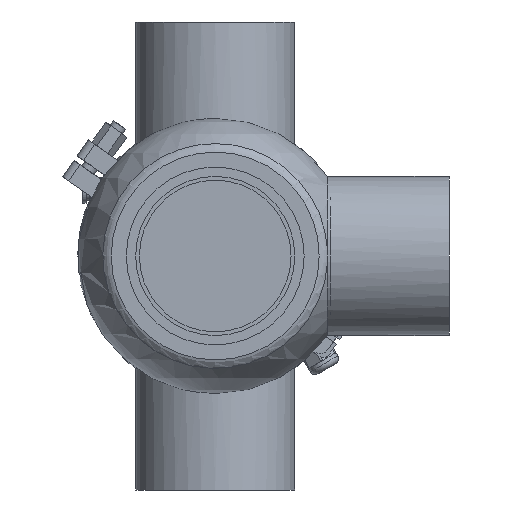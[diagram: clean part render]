
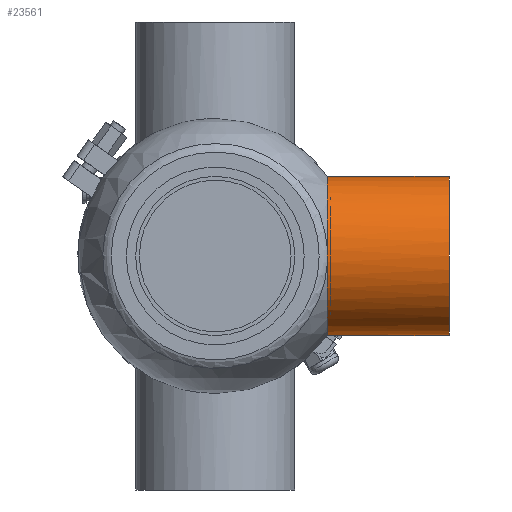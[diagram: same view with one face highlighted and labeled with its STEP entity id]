
A CAD part, front view. The second image highlights one B-rep face of the part: STEP entity #23561.
In plain terms, the highlighted cylindrical face has radius 42.5 mm (diameter 85 mm), a full revolution.
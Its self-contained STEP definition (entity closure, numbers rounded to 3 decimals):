
#1174 = VERTEX_POINT ( 'NONE', #12282 ) ;
#1401 = ORIENTED_EDGE ( 'NONE', *, *, #21452, .T. ) ;
#2538 = CARTESIAN_POINT ( 'NONE',  ( 59.965, -42.489, -1.116 ) ) ;
#3910 = EDGE_LOOP ( 'NONE', ( #56024, #1401, #30383, #42358 ) ) ;
#4134 = CIRCLE ( 'NONE', #19023, 42.5 ) ;
#6075 = ORIENTED_EDGE ( 'NONE', *, *, #41846, .T. ) ;
#6307 = DIRECTION ( 'NONE',  ( -1., 0., 0. ) ) ;
#6930 = CARTESIAN_POINT ( 'NONE',  ( 59.967, -42.367, -3.354 ) ) ;
#7529 = CARTESIAN_POINT ( 'NONE',  ( 59.965, -42.5, -0.553 ) ) ;
#8963 = CARTESIAN_POINT ( 'NONE',  ( 59.989, 42.484, 1.336 ) ) ;
#8988 = B_SPLINE_CURVE_WITH_KNOTS ( 'NONE', 3,
 ( #50100, #15967, #34921, #7529, #2538, #30868, #59385, #6930 ),
 .UNSPECIFIED., .F., .F.,
 ( 4, 2, 2, 4 ),
 ( 0.025, 0.028, 0.03, 0.032 ),
 .UNSPECIFIED. ) ;
#10967 = FACE_OUTER_BOUND ( 'NONE', #20470, .T. ) ;
#12282 = CARTESIAN_POINT ( 'NONE',  ( 59.967, -42.367, -3.354 ) ) ;
#12513 = AXIS2_PLACEMENT_3D ( 'NONE', #56954, #6307, #42693 ) ;
#12578 = CARTESIAN_POINT ( 'NONE',  ( 125., 0., 0. ) ) ;
#13611 = CARTESIAN_POINT ( 'NONE',  ( 59.967, 42.453, 2. ) ) ;
#14784 = CARTESIAN_POINT ( 'NONE',  ( 59.967, 42.453, 2. ) ) ;
#15967 = CARTESIAN_POINT ( 'NONE',  ( 59.967, -42.455, 2.244 ) ) ;
#16460 = CIRCLE ( 'NONE', #51187, 42.5 ) ;
#17689 = CARTESIAN_POINT ( 'NONE',  ( 60., 42.5, 0.666 ) ) ;
#17975 = CARTESIAN_POINT ( 'NONE',  ( 59.967, 0., 0. ) ) ;
#18291 = CARTESIAN_POINT ( 'NONE',  ( 59.967, 42.453, -2. ) ) ;
#19023 = AXIS2_PLACEMENT_3D ( 'NONE', #12578, #54550, #58587 ) ;
#20437 = CARTESIAN_POINT ( 'NONE',  ( 59.967, -42.367, 3.354 ) ) ;
#20470 = EDGE_LOOP ( 'NONE', ( #6075 ) ) ;
#21452 = EDGE_CURVE ( 'NONE', #61036, #1174, #8988, .T. ) ;
#23561 = ADVANCED_FACE ( 'NONE', ( #24045, #10967 ), #29934, .T. ) ;
#24045 = FACE_OUTER_BOUND ( 'NONE', #3910, .T. ) ;
#27917 = DIRECTION ( 'NONE',  ( 1., 0., 0. ) ) ;
#29934 = CYLINDRICAL_SURFACE ( 'NONE', #12513, 42.5 ) ;
#30383 = ORIENTED_EDGE ( 'NONE', *, *, #51588, .T. ) ;
#30697 = DIRECTION ( 'NONE',  ( 1., 0., 0. ) ) ;
#30868 = CARTESIAN_POINT ( 'NONE',  ( 59.966, -42.445, -2.238 ) ) ;
#31815 = AXIS2_PLACEMENT_3D ( 'NONE', #17975, #27917, #50272 ) ;
#34921 = CARTESIAN_POINT ( 'NONE',  ( 59.965, -42.5, 1.129 ) ) ;
#37115 = VERTEX_POINT ( 'NONE', #53801 ) ;
#37744 = EDGE_CURVE ( 'NONE', #37115, #45423, #56330, .T. ) ;
#39634 = CARTESIAN_POINT ( 'NONE',  ( 125., 0., 42.5 ) ) ;
#40914 = EDGE_CURVE ( 'NONE', #45423, #61036, #58574, .T. ) ;
#41846 = EDGE_CURVE ( 'NONE', #49269, #49269, #4134, .T. ) ;
#42358 = ORIENTED_EDGE ( 'NONE', *, *, #37744, .T. ) ;
#42693 = DIRECTION ( 'NONE',  ( 0., 0., 1. ) ) ;
#44684 = DIRECTION ( 'NONE',  ( 0., 0., 1. ) ) ;
#45423 = VERTEX_POINT ( 'NONE', #14784 ) ;
#45629 = CARTESIAN_POINT ( 'NONE',  ( 60., 42.5, -0.672 ) ) ;
#49038 = CARTESIAN_POINT ( 'NONE',  ( 59.967, 0., 0. ) ) ;
#49269 = VERTEX_POINT ( 'NONE', #39634 ) ;
#50100 = CARTESIAN_POINT ( 'NONE',  ( 59.967, -42.367, 3.354 ) ) ;
#50272 = DIRECTION ( 'NONE',  ( 0., 0., 1. ) ) ;
#51187 = AXIS2_PLACEMENT_3D ( 'NONE', #49038, #30697, #44684 ) ;
#51588 = EDGE_CURVE ( 'NONE', #1174, #37115, #16460, .T. ) ;
#53801 = CARTESIAN_POINT ( 'NONE',  ( 59.967, 42.453, -2. ) ) ;
#54550 = DIRECTION ( 'NONE',  ( -1., 0., 0. ) ) ;
#56024 = ORIENTED_EDGE ( 'NONE', *, *, #40914, .T. ) ;
#56330 = B_SPLINE_CURVE_WITH_KNOTS ( 'NONE', 3,
 ( #18291, #59880, #45629, #17689, #8963, #13611 ),
 .UNSPECIFIED., .F., .F.,
 ( 4, 2, 4 ),
 ( 0.024, 0.026, 0.028 ),
 .UNSPECIFIED. ) ;
#56954 = CARTESIAN_POINT ( 'NONE',  ( 0., 0., 0. ) ) ;
#58574 = CIRCLE ( 'NONE', #31815, 42.5 ) ;
#58587 = DIRECTION ( 'NONE',  ( 0., 0., 1. ) ) ;
#59385 = CARTESIAN_POINT ( 'NONE',  ( 59.967, -42.412, -2.797 ) ) ;
#59880 = CARTESIAN_POINT ( 'NONE',  ( 59.989, 42.484, -1.338 ) ) ;
#61036 = VERTEX_POINT ( 'NONE', #20437 ) ;
